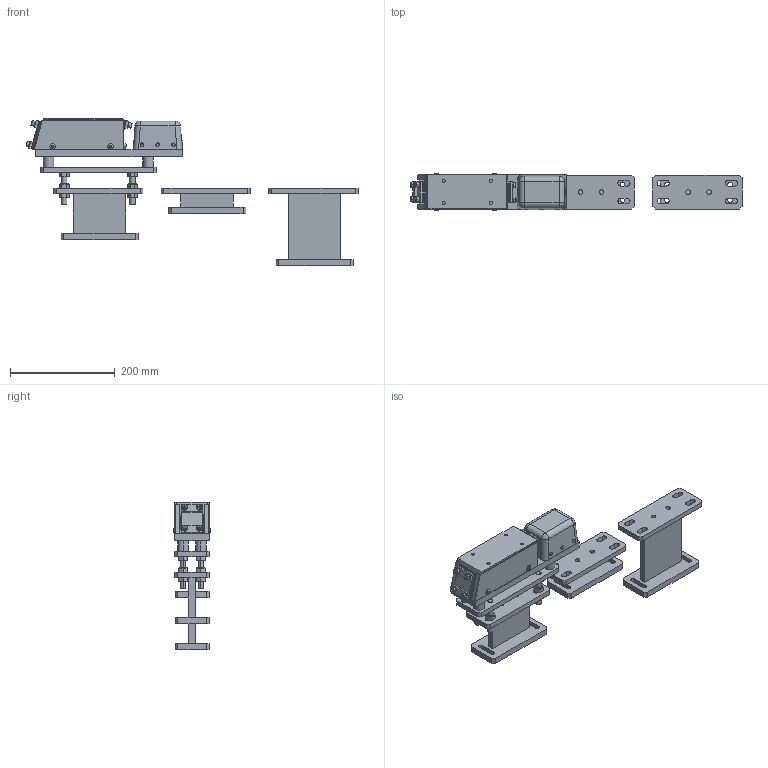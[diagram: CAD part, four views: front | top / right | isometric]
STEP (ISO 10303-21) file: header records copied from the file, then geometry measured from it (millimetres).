
FILE_DESCRIPTION (( 'STEP AP203' ), '1' );
FILE_NAME ('ZY150 盓殤恁饜23.05.07 載陔.STEP', '2023-05-07T01:34:58', ( '' ), ( '' ), 'SwSTEP 2.0', 'SolidWorks 2022', '' );
FILE_SCHEMA (( 'CONFIG_CONTROL_DESIGN' ));
Length unit declared in the file: millimetre
Products named in the file (1): ZY150 盓殤恁饜23.05.07 載陔
Bounding box: 632.85 x 71.6 x 282 mm (x, y, z)
Surface area: 461935.5 mm2 (no closed solid volume)
Topology: 0 solids, 85 shells, 832 faces, 2223 edges, 1488 vertices
Faces by surface type: plane 476, cylinder 210, cone 120, bspline 26
Entity records: 32438 total; most frequent: CARTESIAN_POINT 12050, DIRECTION 4010, ORIENTED_EDGE 3994, EDGE_CURVE 2195, VERTEX_POINT 1488, AXIS2_PLACEMENT_3D 1348, VECTOR 1314, LINE 1314
